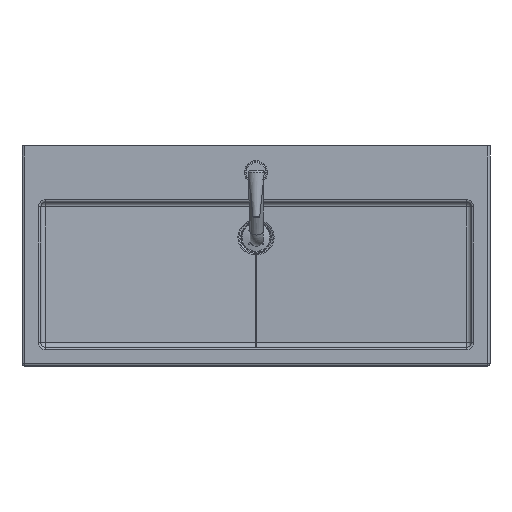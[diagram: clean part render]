
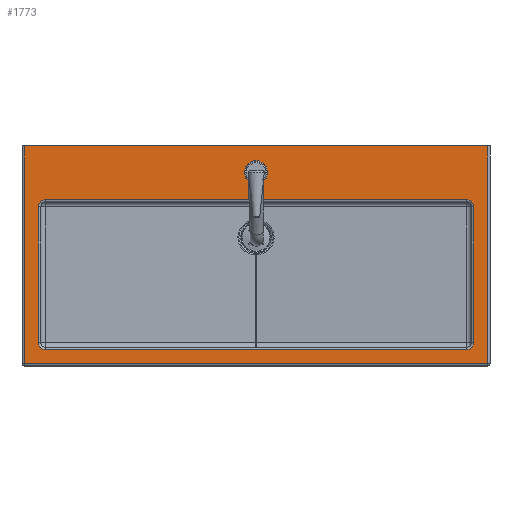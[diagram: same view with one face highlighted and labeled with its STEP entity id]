
A CAD part, top view. The second image highlights one B-rep face of the part: STEP entity #1773.
In plain terms, the highlighted planar face has unit normal (0, 0, 1).
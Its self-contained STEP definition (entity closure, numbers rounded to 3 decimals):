
#1330=CARTESIAN_POINT('',(3.157,36.179,135.0));
#1331=VERTEX_POINT('',#1330);
#1349=CARTESIAN_POINT('',(3.157,326.179,135.0));
#1350=VERTEX_POINT('',#1349);
#1358=CARTESIAN_POINT('',(3.157,326.179,135.0));
#1359=DIRECTION('',(0.0,-1.0,0.0));
#1360=VECTOR('',#1359,290.);
#1361=LINE('',#1358,#1360);
#1362=EDGE_CURVE('',#1350,#1331,#1361,.T.);
#1372=CARTESIAN_POINT('',(18.157,21.179,135.0));
#1373=VERTEX_POINT('',#1372);
#1391=CARTESIAN_POINT('',(18.157,36.179,135.0));
#1392=DIRECTION('',(0.0,0.0,1.0));
#1393=DIRECTION('',(-0.707,-0.707,0.0));
#1394=AXIS2_PLACEMENT_3D('',#1391,#1392,#1393);
#1395=CIRCLE('',#1394,15.);
#1396=EDGE_CURVE('',#1331,#1373,#1395,.T.);
#1408=CARTESIAN_POINT('',(18.157,341.179,135.0));
#1409=VERTEX_POINT('',#1408);
#1417=CARTESIAN_POINT('',(18.157,326.179,135.0));
#1418=DIRECTION('',(0.0,0.0,1.0));
#1419=DIRECTION('',(-0.707,0.707,0.0));
#1420=AXIS2_PLACEMENT_3D('',#1417,#1418,#1419);
#1421=CIRCLE('',#1420,15.);
#1422=EDGE_CURVE('',#1409,#1350,#1421,.T.);
#1440=CARTESIAN_POINT('',(918.157,21.179,135.0));
#1441=VERTEX_POINT('',#1440);
#1458=CARTESIAN_POINT('',(18.157,21.179,135.0));
#1459=DIRECTION('',(1.0,0.0,0.0));
#1460=VECTOR('',#1459,900.0);
#1461=LINE('',#1458,#1460);
#1462=EDGE_CURVE('',#1373,#1441,#1461,.T.);
#1474=CARTESIAN_POINT('',(918.157,341.179,135.0));
#1475=VERTEX_POINT('',#1474);
#1483=CARTESIAN_POINT('',(918.157,341.179,135.0));
#1484=DIRECTION('',(-1.0,0.0,0.0));
#1485=VECTOR('',#1484,900.);
#1486=LINE('',#1483,#1485);
#1487=EDGE_CURVE('',#1475,#1409,#1486,.T.);
#1504=CARTESIAN_POINT('',(933.157,36.179,135.0));
#1505=VERTEX_POINT('',#1504);
#1523=CARTESIAN_POINT('',(918.157,36.179,135.0));
#1524=DIRECTION('',(0.0,0.0,1.));
#1525=DIRECTION('',(0.707,-0.707,0.0));
#1526=AXIS2_PLACEMENT_3D('',#1523,#1524,#1525);
#1527=CIRCLE('',#1526,15.);
#1528=EDGE_CURVE('',#1441,#1505,#1527,.T.);
#1540=CARTESIAN_POINT('',(933.157,326.179,135.0));
#1541=VERTEX_POINT('',#1540);
#1549=CARTESIAN_POINT('',(918.157,326.179,135.0));
#1550=DIRECTION('',(0.0,0.0,1.));
#1551=DIRECTION('',(0.707,0.707,0.0));
#1552=AXIS2_PLACEMENT_3D('',#1549,#1550,#1551);
#1553=CIRCLE('',#1552,15.0);
#1554=EDGE_CURVE('',#1541,#1475,#1553,.T.);
#1573=CARTESIAN_POINT('',(933.157,36.179,135.0));
#1574=DIRECTION('',(0.0,1.0,0.0));
#1575=VECTOR('',#1574,290.);
#1576=LINE('',#1573,#1575);
#1577=EDGE_CURVE('',#1505,#1541,#1576,.T.);
#1713=CARTESIAN_POINT('',(468.157,221.179,135.0));
#1714=DIRECTION('',(0.0,0.0,1.0));
#1715=DIRECTION('',(1.0,0.0,0.0));
#1716=AXIS2_PLACEMENT_3D('',#1713,#1714,#1715);
#1717=PLANE('',#1716);
#1718=CARTESIAN_POINT('',(-26.843,-8.821,135.0));
#1719=VERTEX_POINT('',#1718);
#1720=CARTESIAN_POINT('',(-26.843,456.179,135.0));
#1721=VERTEX_POINT('',#1720);
#1722=CARTESIAN_POINT('',(-26.843,-8.821,135.0));
#1723=DIRECTION('',(0.0,1.0,0.0));
#1724=VECTOR('',#1723,465.0);
#1725=LINE('',#1722,#1724);
#1726=EDGE_CURVE('',#1719,#1721,#1725,.T.);
#1727=ORIENTED_EDGE('',*,*,#1726,.F.);
#1728=CARTESIAN_POINT('',(963.157,-8.821,135.0));
#1729=VERTEX_POINT('',#1728);
#1730=CARTESIAN_POINT('',(963.157,-8.821,135.0));
#1731=DIRECTION('',(-1.0,0.0,0.0));
#1732=VECTOR('',#1731,990.0);
#1733=LINE('',#1730,#1732);
#1734=EDGE_CURVE('',#1729,#1719,#1733,.T.);
#1735=ORIENTED_EDGE('',*,*,#1734,.F.);
#1736=CARTESIAN_POINT('',(963.157,456.179,135.0));
#1737=VERTEX_POINT('',#1736);
#1738=CARTESIAN_POINT('',(963.157,456.179,135.0));
#1739=DIRECTION('',(0.0,-1.0,0.0));
#1740=VECTOR('',#1739,465.);
#1741=LINE('',#1738,#1740);
#1742=EDGE_CURVE('',#1737,#1729,#1741,.T.);
#1743=ORIENTED_EDGE('',*,*,#1742,.F.);
#1744=CARTESIAN_POINT('',(-26.843,456.179,135.0));
#1745=DIRECTION('',(1.0,0.0,0.0));
#1746=VECTOR('',#1745,990.);
#1747=LINE('',#1744,#1746);
#1748=EDGE_CURVE('',#1721,#1737,#1747,.T.);
#1749=ORIENTED_EDGE('',*,*,#1748,.F.);
#1750=EDGE_LOOP('',(#1727,#1735,#1743,#1749));
#1751=FACE_OUTER_BOUND('',#1750,.T.);
#1752=CARTESIAN_POINT('',(490.657,399.587,135.0));
#1753=VERTEX_POINT('',#1752);
#1754=CARTESIAN_POINT('',(468.157,399.587,135.0));
#1755=DIRECTION('',(0.0,0.0,1.0));
#1756=DIRECTION('',(-1.0,0.0,0.0));
#1757=AXIS2_PLACEMENT_3D('',#1754,#1755,#1756);
#1758=CIRCLE('',#1757,22.5);
#1759=EDGE_CURVE('',#1753,#1753,#1758,.T.);
#1760=ORIENTED_EDGE('',*,*,#1759,.F.);
#1761=EDGE_LOOP('',(#1760));
#1762=FACE_BOUND('',#1761,.T.);
#1763=ORIENTED_EDGE('',*,*,#1362,.F.);
#1764=ORIENTED_EDGE('',*,*,#1422,.F.);
#1765=ORIENTED_EDGE('',*,*,#1487,.F.);
#1766=ORIENTED_EDGE('',*,*,#1554,.F.);
#1767=ORIENTED_EDGE('',*,*,#1577,.F.);
#1768=ORIENTED_EDGE('',*,*,#1528,.F.);
#1769=ORIENTED_EDGE('',*,*,#1462,.F.);
#1770=ORIENTED_EDGE('',*,*,#1396,.F.);
#1771=EDGE_LOOP('',(#1763,#1764,#1765,#1766,#1767,#1768,#1769,#1770));
#1772=FACE_BOUND('',#1771,.T.);
#1773=ADVANCED_FACE('',(#1751,#1762,#1772),#1717,.T.);
